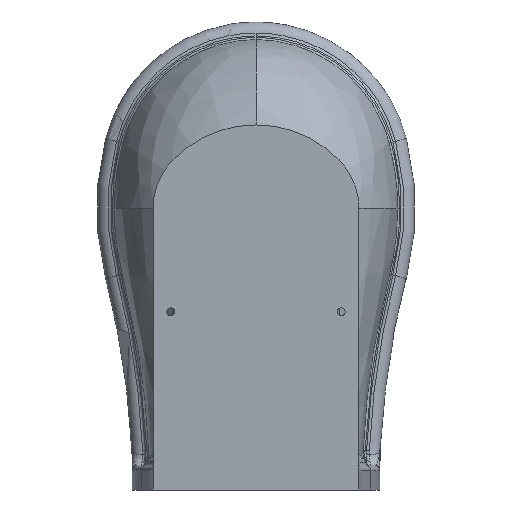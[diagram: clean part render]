
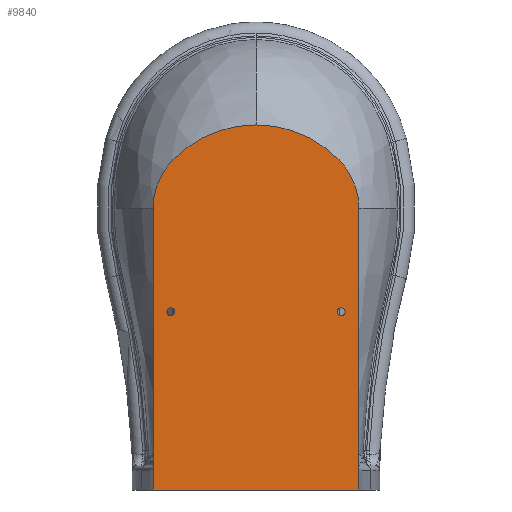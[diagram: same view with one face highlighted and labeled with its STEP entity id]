
A CAD part, front view. The second image highlights one B-rep face of the part: STEP entity #9840.
In plain terms, the highlighted planar face has unit normal (0, -1, 0).
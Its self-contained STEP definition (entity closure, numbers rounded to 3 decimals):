
#37 = CIRCLE ( 'NONE', #24564, 87.838 ) ;
#319 = VECTOR ( 'NONE', #30946, 1000. ) ;
#736 = VERTEX_POINT ( 'NONE', #22219 ) ;
#1074 = VECTOR ( 'NONE', #9139, 1000. ) ;
#1369 = ORIENTED_EDGE ( 'NONE', *, *, #20836, .F. ) ;
#2237 = AXIS2_PLACEMENT_3D ( 'NONE', #32307, #32354, #32429 ) ;
#3458 = EDGE_CURVE ( 'NONE', #13067, #736, #20008, .T. ) ;
#3839 = DIRECTION ( 'NONE',  ( 0., 0., 1. ) ) ;
#4425 = DIRECTION ( 'NONE',  ( 0., -1., 0. ) ) ;
#4829 = EDGE_CURVE ( 'NONE', #35044, #9283, #8926, .T. ) ;
#4862 = ORIENTED_EDGE ( 'NONE', *, *, #10632, .T. ) ;
#5399 = CARTESIAN_POINT ( 'NONE',  ( -130., -420., 355.5 ) ) ;
#7108 = CARTESIAN_POINT ( 'NONE',  ( 107.5, -420., 225. ) ) ;
#7431 = FACE_OUTER_BOUND ( 'NONE', #15866, .T. ) ;
#8137 = LINE ( 'NONE', #13590, #319 ) ;
#8342 = FACE_BOUND ( 'NONE', #26369, .T. ) ;
#8926 = LINE ( 'NONE', #9060, #1074 ) ;
#9060 = CARTESIAN_POINT ( 'NONE',  ( -100., -420., 0. ) ) ;
#9139 = DIRECTION ( 'NONE',  ( -1., 0., 0. ) ) ;
#9283 = VERTEX_POINT ( 'NONE', #17372 ) ;
#9840 = ADVANCED_FACE ( 'NONE', ( #8342, #7431, #30664 ), #32626, .F. ) ;
#9947 = ORIENTED_EDGE ( 'NONE', *, *, #21427, .T. ) ;
#10076 = DIRECTION ( 'NONE',  ( 0., 0., 1. ) ) ;
#10632 = EDGE_CURVE ( 'NONE', #31449, #35315, #37, .T. ) ;
#10998 = ORIENTED_EDGE ( 'NONE', *, *, #13096, .F. ) ;
#12788 = VECTOR ( 'NONE', #15591, 1000. ) ;
#13067 = VERTEX_POINT ( 'NONE', #29950 ) ;
#13096 = EDGE_CURVE ( 'NONE', #29585, #29585, #35616, .T. ) ;
#13590 = CARTESIAN_POINT ( 'NONE',  ( -130., -420., 355.5 ) ) ;
#13686 = ORIENTED_EDGE ( 'NONE', *, *, #22396, .T. ) ;
#13720 = AXIS2_PLACEMENT_3D ( 'NONE', #7108, #27655, #10076 ) ;
#14635 = CARTESIAN_POINT ( 'NONE',  ( 130., -420., 0. ) ) ;
#15591 = DIRECTION ( 'NONE',  ( 0., 0., -1. ) ) ;
#15866 = EDGE_LOOP ( 'NONE', ( #16782, #1369, #19540, #13686, #4862, #9947 ) ) ;
#16057 = CARTESIAN_POINT ( 'NONE',  ( -107.5, -420., 230. ) ) ;
#16722 = EDGE_CURVE ( 'NONE', #21959, #21959, #34604, .T. ) ;
#16782 = ORIENTED_EDGE ( 'NONE', *, *, #4829, .F. ) ;
#17220 = CARTESIAN_POINT ( 'NONE',  ( -107.5, -420., 225. ) ) ;
#17372 = CARTESIAN_POINT ( 'NONE',  ( -130., -420., 0. ) ) ;
#17426 = CARTESIAN_POINT ( 'NONE',  ( -42.162, -420., 355.5 ) ) ;
#17573 = ORIENTED_EDGE ( 'NONE', *, *, #16722, .T. ) ;
#18153 = EDGE_LOOP ( 'NONE', ( #10998 ) ) ;
#18548 = CARTESIAN_POINT ( 'NONE',  ( -42.162, -420., 355.5 ) ) ;
#19540 = ORIENTED_EDGE ( 'NONE', *, *, #3458, .F. ) ;
#19551 = AXIS2_PLACEMENT_3D ( 'NONE', #22078, #4425, #25023 ) ;
#20008 = CIRCLE ( 'NONE', #2237, 87.838 ) ;
#20184 = DIRECTION ( 'NONE',  ( 0., 0., 1. ) ) ;
#20390 = DIRECTION ( 'NONE',  ( -0.714, 0., 0.7 ) ) ;
#20640 = LINE ( 'NONE', #30022, #12788 ) ;
#20836 = EDGE_CURVE ( 'NONE', #736, #35044, #20640, .T. ) ;
#21427 = EDGE_CURVE ( 'NONE', #35315, #9283, #8137, .T. ) ;
#21508 = DIRECTION ( 'NONE',  ( 0., 1., 0. ) ) ;
#21959 = VERTEX_POINT ( 'NONE', #16057 ) ;
#22078 = CARTESIAN_POINT ( 'NONE',  ( 0., -420., 314.123 ) ) ;
#22219 = CARTESIAN_POINT ( 'NONE',  ( 130., -420., 355.5 ) ) ;
#22396 = EDGE_CURVE ( 'NONE', #13067, #31449, #22409, .T. ) ;
#22409 = CIRCLE ( 'NONE', #19551, 146.912 ) ;
#23920 = CARTESIAN_POINT ( 'NONE',  ( -104.853, -420., 417.025 ) ) ;
#24564 = AXIS2_PLACEMENT_3D ( 'NONE', #17426, #37604, #20390 ) ;
#25023 = DIRECTION ( 'NONE',  ( 0., 0., 1. ) ) ;
#26369 = EDGE_LOOP ( 'NONE', ( #17573 ) ) ;
#27655 = DIRECTION ( 'NONE',  ( 0., -1., 0. ) ) ;
#27940 = AXIS2_PLACEMENT_3D ( 'NONE', #18548, #21508, #3839 ) ;
#29585 = VERTEX_POINT ( 'NONE', #33330 ) ;
#29950 = CARTESIAN_POINT ( 'NONE',  ( 104.853, -420., 417.025 ) ) ;
#30022 = CARTESIAN_POINT ( 'NONE',  ( 130., -420., 355.5 ) ) ;
#30664 = FACE_BOUND ( 'NONE', #18153, .T. ) ;
#30946 = DIRECTION ( 'NONE',  ( 0., 0., -1. ) ) ;
#31449 = VERTEX_POINT ( 'NONE', #23920 ) ;
#32307 = CARTESIAN_POINT ( 'NONE',  ( 42.162, -420., 355.5 ) ) ;
#32354 = DIRECTION ( 'NONE',  ( 0., 1., 0. ) ) ;
#32429 = DIRECTION ( 'NONE',  ( 0.714, 0., 0.7 ) ) ;
#32626 = PLANE ( 'NONE',  #27940 ) ;
#33330 = CARTESIAN_POINT ( 'NONE',  ( 107.5, -420., 230. ) ) ;
#34604 = CIRCLE ( 'NONE', #37728, 5. ) ;
#35044 = VERTEX_POINT ( 'NONE', #14635 ) ;
#35315 = VERTEX_POINT ( 'NONE', #5399 ) ;
#35616 = CIRCLE ( 'NONE', #13720, 5. ) ;
#37392 = DIRECTION ( 'NONE',  ( 0., 1., 0. ) ) ;
#37604 = DIRECTION ( 'NONE',  ( 0., -1., 0. ) ) ;
#37728 = AXIS2_PLACEMENT_3D ( 'NONE', #17220, #37392, #20184 ) ;
